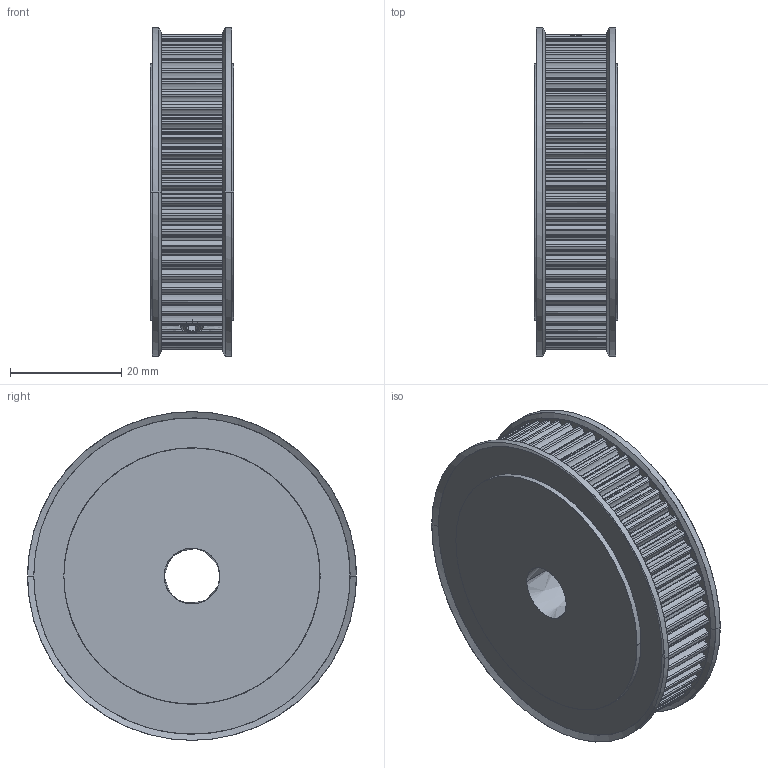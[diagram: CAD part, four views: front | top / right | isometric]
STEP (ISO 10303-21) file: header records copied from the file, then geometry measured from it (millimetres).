
FILE_DESCRIPTION(/* description */ (''),/* implementation_level */ '2;1');
FILE_NAME(/* name */ '6.y-drive#6.2#GPA60GT3090-A-P12-FC59',/* time_stamp */ '2014-12-01T20:14:03+01:00',/* author */ (''),/* organization */ (''),/* preprocessor_version */ 'ST-DEVELOPER v14',/* originating_system */ '',/* authorisation */ '');
FILE_SCHEMA (('AUTOMOTIVE_DESIGN'));
Length unit declared in the file: millimetre
Products named in the file (2): Document; pulley GPA60GT3090-A-P60-FC59
Assembly tree (1 placements, depth 2):
  Document
    pulley GPA60GT3090-A-P60-FC59
Bounding box: 15 x 59 x 59 mm (x, y, z)
Surface area: 11391.9 mm2 (no closed solid volume)
Topology: 0 solids, 568 shells, 568 faces, 2197 edges, 2197 vertices
Faces by surface type: bspline 544, plane 24
Entity records: 52547 total; most frequent: CARTESIAN_POINT 27994, B_SPLINE_CURVE_WITH_KNOTS 3282, ORIENTED_EDGE 2197, PCURVE 2197, DEFINITIONAL_REPRESENTATION 2197, SURFACE_CURVE 2197, EDGE_CURVE 2197, VERTEX_POINT 2197
